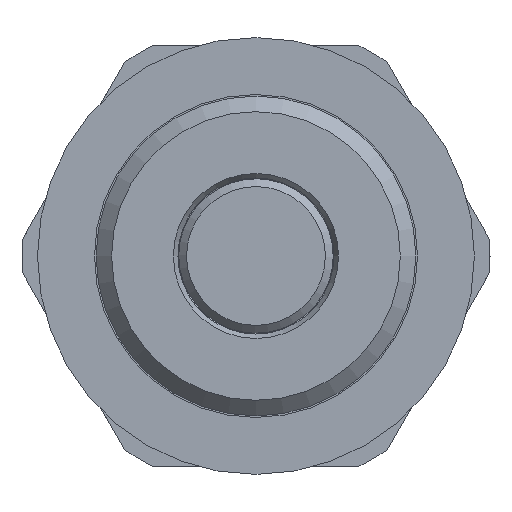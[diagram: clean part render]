
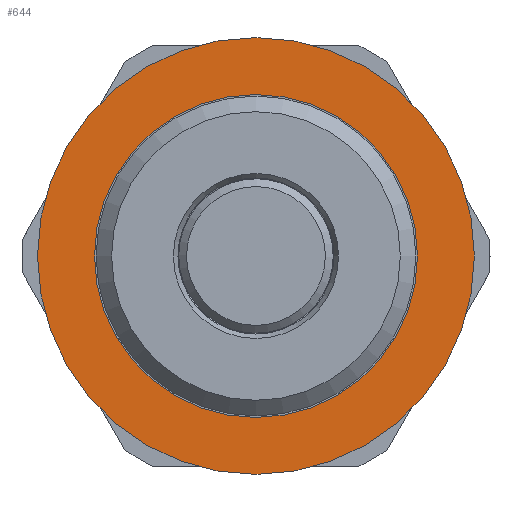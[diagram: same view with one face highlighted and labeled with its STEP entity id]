
A CAD part, front view. The second image highlights one B-rep face of the part: STEP entity #644.
In plain terms, the highlighted planar face has unit normal (0, -1, 0).
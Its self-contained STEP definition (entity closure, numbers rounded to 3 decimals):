
#117=FACE_BOUND('',#163,.T.);
#123=FACE_OUTER_BOUND('',#162,.T.);
#162=EDGE_LOOP('',(#411));
#163=EDGE_LOOP('',(#412));
#203=CIRCLE('',#704,10.35);
#205=CIRCLE('',#707,14.);
#251=VERTEX_POINT('',#1006);
#253=VERTEX_POINT('',#1012);
#311=EDGE_CURVE('',#251,#251,#203,.T.);
#315=EDGE_CURVE('',#253,#253,#205,.T.);
#411=ORIENTED_EDGE('',*,*,#315,.T.);
#412=ORIENTED_EDGE('',*,*,#311,.T.);
#585=PLANE('',#708);
#644=ADVANCED_FACE('',(#123,#117),#585,.F.);
#704=AXIS2_PLACEMENT_3D('',#1007,#797,#798);
#707=AXIS2_PLACEMENT_3D('',#1014,#805,#806);
#708=AXIS2_PLACEMENT_3D('',#1015,#807,#808);
#797=DIRECTION('center_axis',(0.,1.,0.));
#798=DIRECTION('ref_axis',(-1.,0.,0.));
#805=DIRECTION('center_axis',(0.,-1.,0.));
#806=DIRECTION('ref_axis',(-1.,0.,0.));
#807=DIRECTION('center_axis',(0.,1.,0.));
#808=DIRECTION('ref_axis',(1.,0.,0.));
#1006=CARTESIAN_POINT('',(2.781,3.945,1.791));
#1007=CARTESIAN_POINT('Origin',(-7.569,3.945,1.791));
#1012=CARTESIAN_POINT('',(6.431,3.945,1.791));
#1014=CARTESIAN_POINT('Origin',(-7.569,3.945,1.791));
#1015=CARTESIAN_POINT('Origin',(-7.569,3.945,1.791));
